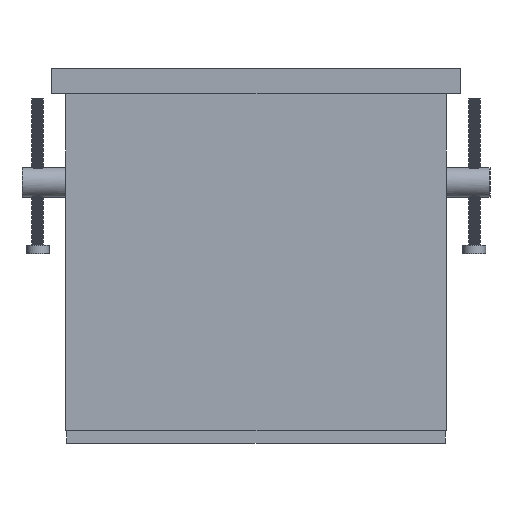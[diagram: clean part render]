
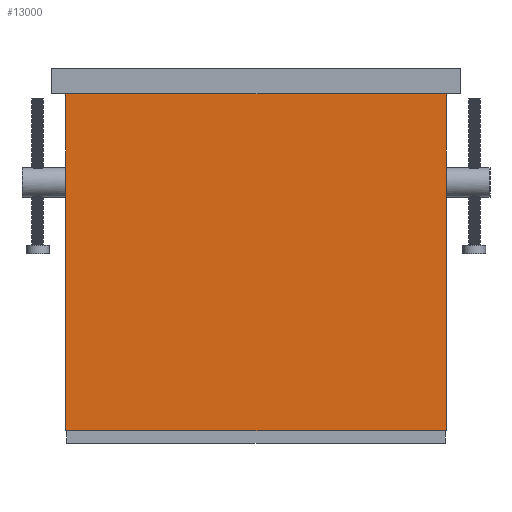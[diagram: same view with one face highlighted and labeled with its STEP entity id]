
A CAD part, front view. The second image highlights one B-rep face of the part: STEP entity #13000.
In plain terms, the highlighted planar face has unit normal (0, -1, 0).
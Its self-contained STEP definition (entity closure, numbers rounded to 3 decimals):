
#262 = EDGE_CURVE ( 'NONE', #21272, #12946, #484, .T. ) ;
#484 = LINE ( 'NONE', #9810, #17931 ) ;
#1493 = DIRECTION ( 'NONE',  ( 0., 0., 1. ) ) ;
#1553 = FACE_OUTER_BOUND ( 'NONE', #3218, .T. ) ;
#2107 = CARTESIAN_POINT ( 'NONE',  ( -45.25, -21.6, -85. ) ) ;
#2235 = EDGE_CURVE ( 'NONE', #17860, #21272, #16641, .T. ) ;
#2299 = CARTESIAN_POINT ( 'NONE',  ( -45.25, -21.6, -4.5 ) ) ;
#2495 = EDGE_CURVE ( 'NONE', #17860, #5861, #19771, .T. ) ;
#3050 = DIRECTION ( 'NONE',  ( 1., 0., 0. ) ) ;
#3218 = EDGE_LOOP ( 'NONE', ( #15084, #7474, #6756, #18843 ) ) ;
#3770 = CARTESIAN_POINT ( 'NONE',  ( 45.25, -21.6, -85. ) ) ;
#4246 = VECTOR ( 'NONE', #1493, 1000. ) ;
#5298 = DIRECTION ( 'NONE',  ( 0., 0., -1. ) ) ;
#5861 = VERTEX_POINT ( 'NONE', #3770 ) ;
#6756 = ORIENTED_EDGE ( 'NONE', *, *, #2235, .F. ) ;
#7474 = ORIENTED_EDGE ( 'NONE', *, *, #262, .F. ) ;
#9054 = DIRECTION ( 'NONE',  ( 0., 0., 1. ) ) ;
#9810 = CARTESIAN_POINT ( 'NONE',  ( -45.25, -21.6, -4.5 ) ) ;
#10796 = VECTOR ( 'NONE', #20155, 1000. ) ;
#12148 = VECTOR ( 'NONE', #9054, 1000. ) ;
#12427 = EDGE_CURVE ( 'NONE', #5861, #12946, #21770, .T. ) ;
#12946 = VERTEX_POINT ( 'NONE', #15305 ) ;
#13000 = ADVANCED_FACE ( 'NONE', ( #1553 ), #20479, .T. ) ;
#13357 = CARTESIAN_POINT ( 'NONE',  ( 45.25, -21.6, -85. ) ) ;
#13738 = CARTESIAN_POINT ( 'NONE',  ( -45.25, -21.6, -85. ) ) ;
#15084 = ORIENTED_EDGE ( 'NONE', *, *, #12427, .T. ) ;
#15305 = CARTESIAN_POINT ( 'NONE',  ( 45.25, -21.6, -4.5 ) ) ;
#15434 = DIRECTION ( 'NONE',  ( 0., -1., 0. ) ) ;
#16641 = LINE ( 'NONE', #19176, #12148 ) ;
#17860 = VERTEX_POINT ( 'NONE', #2107 ) ;
#17897 = AXIS2_PLACEMENT_3D ( 'NONE', #13738, #15434, #5298 ) ;
#17931 = VECTOR ( 'NONE', #3050, 1000. ) ;
#18843 = ORIENTED_EDGE ( 'NONE', *, *, #2495, .T. ) ;
#19176 = CARTESIAN_POINT ( 'NONE',  ( -45.25, -21.6, -85. ) ) ;
#19771 = LINE ( 'NONE', #21905, #10796 ) ;
#20155 = DIRECTION ( 'NONE',  ( 1., 0., 0. ) ) ;
#20479 = PLANE ( 'NONE',  #17897 ) ;
#21272 = VERTEX_POINT ( 'NONE', #2299 ) ;
#21770 = LINE ( 'NONE', #13357, #4246 ) ;
#21905 = CARTESIAN_POINT ( 'NONE',  ( -45.25, -21.6, -85. ) ) ;
